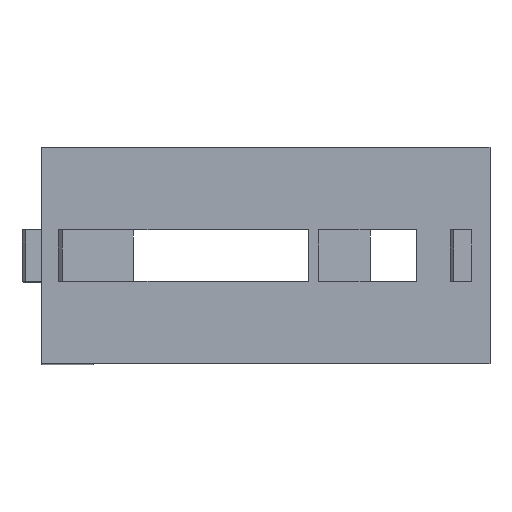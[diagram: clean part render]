
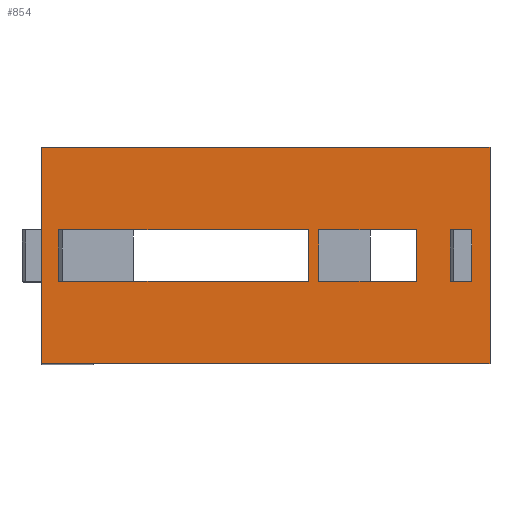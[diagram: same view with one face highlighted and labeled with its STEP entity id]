
A CAD part, top view. The second image highlights one B-rep face of the part: STEP entity #854.
In plain terms, the highlighted planar face has unit normal (0, 0, 1).
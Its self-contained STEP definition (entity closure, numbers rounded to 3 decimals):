
#17=DIRECTION('',(1.,0.,0.));
#18=VECTOR('',#17,87.);
#19=CARTESIAN_POINT('',(0.,1.5,0.));
#20=LINE('',#19,#18);
#57=DIRECTION('',(1.,0.,0.));
#58=VECTOR('',#57,44.);
#59=CARTESIAN_POINT('',(7.778,27.5,0.));
#60=LINE('',#59,#58);
#65=DIRECTION('',(0.,1.,0.));
#66=VECTOR('',#65,42.);
#67=CARTESIAN_POINT('',(0.,1.5,0.));
#68=LINE('',#67,#66);
#69=DIRECTION('',(-1.,0.,0.));
#70=VECTOR('',#69,1.414);
#71=CARTESIAN_POINT('',(83.464,17.5,0.));
#72=LINE('',#71,#70);
#73=DIRECTION('',(0.,-1.,0.));
#74=VECTOR('',#73,10.);
#75=CARTESIAN_POINT('',(83.464,27.5,0.));
#76=LINE('',#75,#74);
#77=DIRECTION('',(1.,0.,0.));
#78=VECTOR('',#77,1.414);
#79=CARTESIAN_POINT('',(82.05,27.5,0.));
#80=LINE('',#79,#78);
#81=DIRECTION('',(0.,1.,0.));
#82=VECTOR('',#81,10.);
#83=CARTESIAN_POINT('',(82.05,17.5,0.));
#84=LINE('',#83,#82);
#85=DIRECTION('',(1.,0.,0.));
#86=VECTOR('',#85,1.414);
#87=CARTESIAN_POINT('',(6.364,27.5,0.));
#88=LINE('',#87,#86);
#89=DIRECTION('',(0.,1.,0.));
#90=VECTOR('',#89,10.);
#91=CARTESIAN_POINT('',(6.364,17.5,0.));
#92=LINE('',#91,#90);
#93=DIRECTION('',(-1.,0.,0.));
#94=VECTOR('',#93,1.414);
#95=CARTESIAN_POINT('',(7.778,17.5,0.));
#96=LINE('',#95,#94);
#97=DIRECTION('',(0.,-1.,0.));
#98=VECTOR('',#97,10.);
#99=CARTESIAN_POINT('',(51.778,27.5,0.));
#100=LINE('',#99,#98);
#101=DIRECTION('',(0.,1.,0.));
#102=VECTOR('',#101,10.);
#103=CARTESIAN_POINT('',(53.74,17.5,0.));
#104=LINE('',#103,#102);
#105=DIRECTION('',(0.,-1.,0.));
#106=VECTOR('',#105,10.);
#107=CARTESIAN_POINT('',(72.74,27.5,0.));
#108=LINE('',#107,#106);
#361=DIRECTION('',(-1.,0.,0.));
#362=VECTOR('',#361,44.);
#363=CARTESIAN_POINT('',(51.778,17.5,0.));
#364=LINE('',#363,#362);
#435=DIRECTION('',(0.,1.,0.));
#436=VECTOR('',#435,42.);
#437=CARTESIAN_POINT('',(87.,1.5,0.));
#438=LINE('',#437,#436);
#455=DIRECTION('',(1.,0.,0.));
#456=VECTOR('',#455,87.);
#457=CARTESIAN_POINT('',(0.,43.5,0.));
#458=LINE('',#457,#456);
#523=DIRECTION('',(1.,0.,0.));
#524=VECTOR('',#523,19.);
#525=CARTESIAN_POINT('',(53.74,27.5,0.));
#526=LINE('',#525,#524);
#543=DIRECTION('',(-1.,0.,0.));
#544=VECTOR('',#543,19.);
#545=CARTESIAN_POINT('',(72.74,17.5,0.));
#546=LINE('',#545,#544);
#560=CARTESIAN_POINT('',(0.,1.5,0.));
#562=VERTEX_POINT('',#560);
#563=CARTESIAN_POINT('',(87.,1.5,0.));
#564=VERTEX_POINT('',#563);
#566=CARTESIAN_POINT('',(0.,43.5,0.));
#568=VERTEX_POINT('',#566);
#569=CARTESIAN_POINT('',(87.,43.5,0.));
#570=VERTEX_POINT('',#569);
#583=CARTESIAN_POINT('',(53.74,17.5,0.));
#584=CARTESIAN_POINT('',(53.74,27.5,0.));
#585=VERTEX_POINT('',#583);
#586=VERTEX_POINT('',#584);
#643=CARTESIAN_POINT('',(7.778,17.5,0.));
#644=CARTESIAN_POINT('',(6.364,17.5,0.));
#645=VERTEX_POINT('',#643);
#646=VERTEX_POINT('',#644);
#647=CARTESIAN_POINT('',(6.364,27.5,0.));
#648=VERTEX_POINT('',#647);
#649=CARTESIAN_POINT('',(7.778,27.5,0.));
#650=VERTEX_POINT('',#649);
#675=CARTESIAN_POINT('',(83.464,17.5,0.));
#676=CARTESIAN_POINT('',(82.05,17.5,0.));
#677=VERTEX_POINT('',#675);
#678=VERTEX_POINT('',#676);
#679=CARTESIAN_POINT('',(82.05,27.5,0.));
#680=VERTEX_POINT('',#679);
#681=CARTESIAN_POINT('',(83.464,27.5,0.));
#682=VERTEX_POINT('',#681);
#683=CARTESIAN_POINT('',(51.778,27.5,0.));
#684=CARTESIAN_POINT('',(51.778,17.5,0.));
#685=VERTEX_POINT('',#683);
#686=VERTEX_POINT('',#684);
#687=CARTESIAN_POINT('',(72.74,27.5,0.));
#688=CARTESIAN_POINT('',(72.74,17.5,0.));
#689=VERTEX_POINT('',#687);
#690=VERTEX_POINT('',#688);
#807=CARTESIAN_POINT('',(0.,1.5,0.));
#808=DIRECTION('',(0.,0.,1.));
#809=DIRECTION('',(1.,0.,0.));
#810=AXIS2_PLACEMENT_3D('',#807,#808,#809);
#811=PLANE('',#810);
#812=ORIENTED_EDGE('',*,*,#748,.F.);
#814=ORIENTED_EDGE('',*,*,#813,.T.);
#816=ORIENTED_EDGE('',*,*,#815,.T.);
#818=ORIENTED_EDGE('',*,*,#817,.F.);
#819=EDGE_LOOP('',(#812,#814,#816,#818));
#820=FACE_OUTER_BOUND('',#819,.F.);
#822=ORIENTED_EDGE('',*,*,#821,.F.);
#824=ORIENTED_EDGE('',*,*,#823,.F.);
#826=ORIENTED_EDGE('',*,*,#825,.F.);
#828=ORIENTED_EDGE('',*,*,#827,.F.);
#829=EDGE_LOOP('',(#822,#824,#826,#828));
#830=FACE_BOUND('',#829,.F.);
#831=ORIENTED_EDGE('',*,*,#795,.F.);
#833=ORIENTED_EDGE('',*,*,#832,.F.);
#835=ORIENTED_EDGE('',*,*,#834,.F.);
#837=ORIENTED_EDGE('',*,*,#836,.F.);
#839=ORIENTED_EDGE('',*,*,#838,.F.);
#841=ORIENTED_EDGE('',*,*,#840,.F.);
#842=EDGE_LOOP('',(#831,#833,#835,#837,#839,#841));
#843=FACE_BOUND('',#842,.F.);
#845=ORIENTED_EDGE('',*,*,#844,.F.);
#847=ORIENTED_EDGE('',*,*,#846,.F.);
#849=ORIENTED_EDGE('',*,*,#848,.F.);
#851=ORIENTED_EDGE('',*,*,#850,.F.);
#852=EDGE_LOOP('',(#845,#847,#849,#851));
#853=FACE_BOUND('',#852,.F.);
#854=ADVANCED_FACE('',(#820,#830,#843,#853),#811,.T.);
#748=EDGE_CURVE('',#562,#564,#20,.T.);
#795=EDGE_CURVE('',#650,#685,#60,.T.);
#813=EDGE_CURVE('',#562,#568,#68,.T.);
#815=EDGE_CURVE('',#568,#570,#458,.T.);
#817=EDGE_CURVE('',#564,#570,#438,.T.);
#821=EDGE_CURVE('',#677,#678,#72,.T.);
#823=EDGE_CURVE('',#682,#677,#76,.T.);
#825=EDGE_CURVE('',#680,#682,#80,.T.);
#827=EDGE_CURVE('',#678,#680,#84,.T.);
#832=EDGE_CURVE('',#648,#650,#88,.T.);
#834=EDGE_CURVE('',#646,#648,#92,.T.);
#836=EDGE_CURVE('',#645,#646,#96,.T.);
#838=EDGE_CURVE('',#686,#645,#364,.T.);
#840=EDGE_CURVE('',#685,#686,#100,.T.);
#844=EDGE_CURVE('',#586,#689,#526,.T.);
#846=EDGE_CURVE('',#585,#586,#104,.T.);
#848=EDGE_CURVE('',#690,#585,#546,.T.);
#850=EDGE_CURVE('',#689,#690,#108,.T.);
